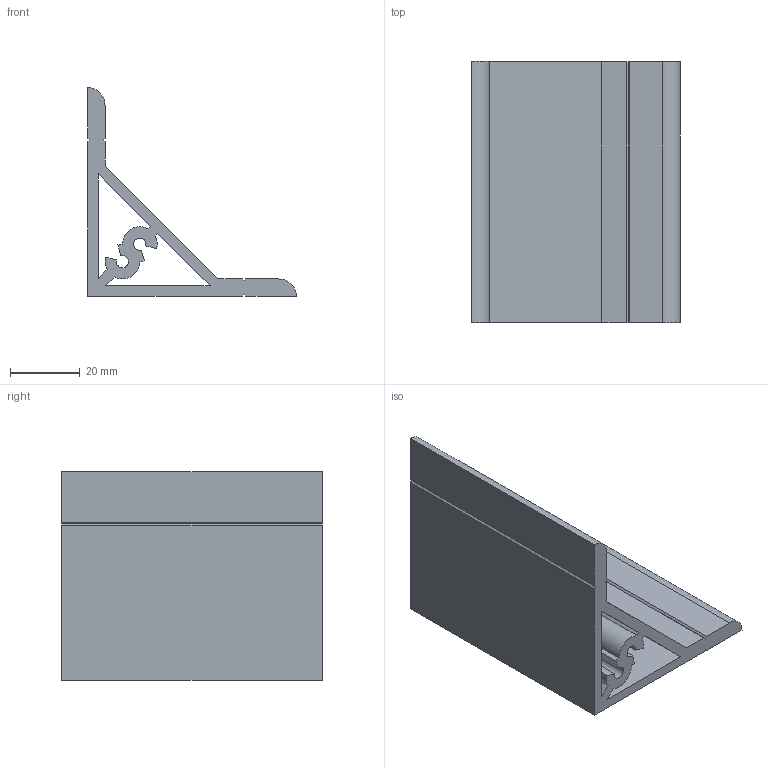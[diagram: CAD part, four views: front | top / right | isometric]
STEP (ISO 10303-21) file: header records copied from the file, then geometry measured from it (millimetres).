
FILE_DESCRIPTION(/* description */ ('Unknown'),/* implementation_level */ '2;1');
FILE_NAME(/* name */ 'NML6090',/* time_stamp */ '2026-09-02T13:04:37+08:00',/* author */ ('Unknown'),/* organization */ ('Unknown'),/* preprocessor_version */ 'ST-DEVELOPER v16.7',/* originating_system */ 'DEX',/* authorisation */ $);
FILE_SCHEMA (('AUTOMOTIVE_DESIGN {1 0 10303 214 3 1 1}'));
Length unit declared in the file: millimetre
Products named in the file (1): NML6090
Bounding box: 60 x 75 x 60 mm (x, y, z)
Volume: 51522.6 mm3; surface area: 30788 mm2
Topology: 1 solids, 1 shells, 41 faces, 117 edges, 78 vertices
Faces by surface type: plane 31, cylinder 10
Entity records: 1369 total; most frequent: CARTESIAN_POINT 237, ORIENTED_EDGE 234, DIRECTION 221, EDGE_CURVE 117, LINE 97, VECTOR 97, VERTEX_POINT 78, AXIS2_PLACEMENT_3D 62
